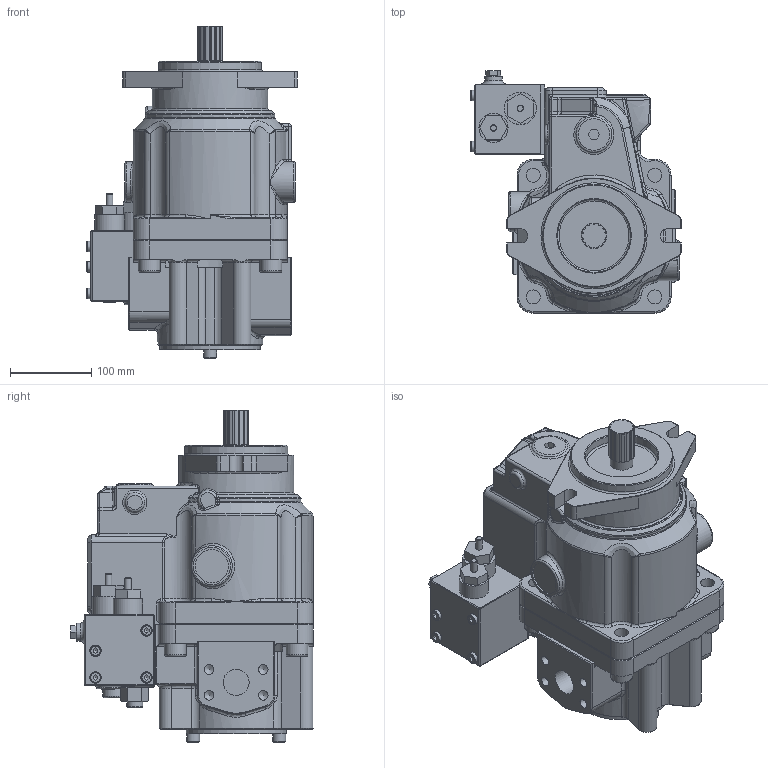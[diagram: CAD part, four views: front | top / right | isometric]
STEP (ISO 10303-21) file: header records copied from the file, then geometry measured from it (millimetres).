
FILE_DESCRIPTION((''),'2;1');
FILE_NAME('I:\3D Step files\Approved for WEB\K3V\K3VL112B 1NRCS L1.stp','2011-12-22T11:27:56',('mnorman'),(''),'Autodesk Inventor 2012','Autodesk Inventor 2012','');
FILE_SCHEMA(('AUTOMOTIVE_DESIGN { 1 0 10303 214 1 1 1 1 }'));
Length unit declared in the file: millimetre
Products named in the file (1): Part19
Bounding box: 259.5 x 299 x 409.42 mm (x, y, z)
Volume: 9880734.8 mm3; surface area: 692136.1 mm2
Topology: 1 solids, 16 shells, 1147 faces, 2676 edges, 1584 vertices
Faces by surface type: plane 457, cylinder 295, bspline 155, cone 125, torus 94, sphere 21
Full cylindrical faces by diameter (mm): 4.917 x4, 6.647 x5, 8 x6, 9 x4, 10 x2, 10.106 x8, 11 x2, 11.835 x4, 13 x4, 14 x4, 16 x4, 17.294 x5, 19.177 x1, 20 x2, 22 x5, 27 x5, 28 x1, 32 x6, 36 x1, 40 x1, 41 x2, 44 x1, 47 x1, 50 x1, 64 x1, 75 x1, 82.55 x1, 90 x2, 123.5 x1, 126.975 x1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
Entity records: 39709 total; most frequent: CARTESIAN_POINT 14122, DIRECTION 5020, ORIENTED_EDGE 4898, EDGE_CURVE 2449, AXIS2_PLACEMENT_3D 1963, VERTEX_POINT 1538, EDGE_LOOP 1361, STYLED_ITEM 1148
